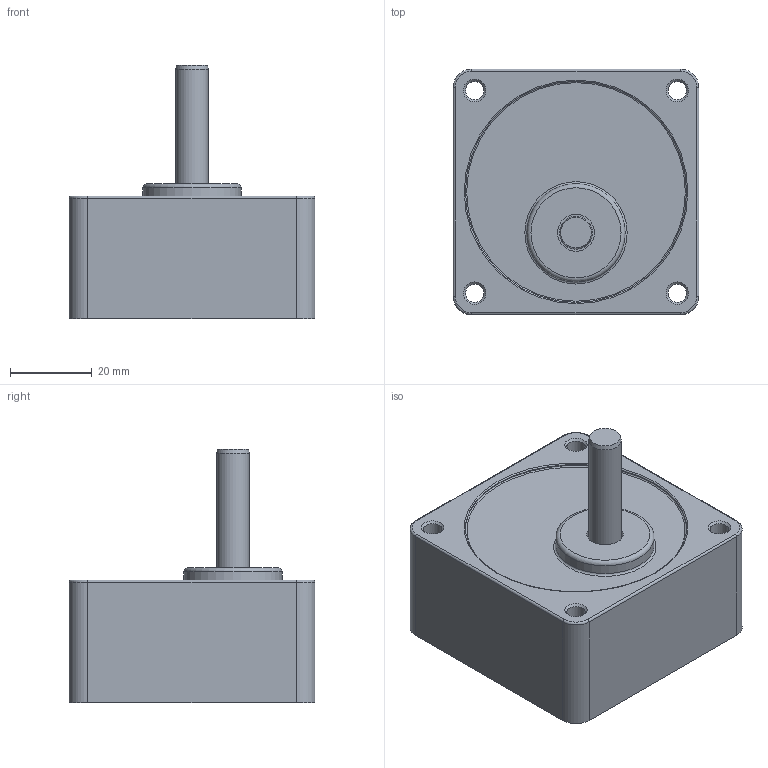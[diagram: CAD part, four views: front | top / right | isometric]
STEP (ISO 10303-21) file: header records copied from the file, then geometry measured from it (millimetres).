
FILE_DESCRIPTION((''),'2;1');
FILE_NAME('D:\STP파일\GEAR HEAD\6W\S6SA3~18.stp','2013-05-20T19:06:35',('leebh'),(''),'Autodesk Inventor 2011','Autodesk Inventor 2011','');
FILE_SCHEMA(('AUTOMOTIVE_DESIGN { 1 0 10303 214 1 1 1 1 }'));
Length unit declared in the file: millimetre
Products named in the file (1): S9I90G-T1
Bounding box: 60 x 60 x 62 mm (x, y, z)
Volume: 95697.3 mm3; surface area: 17934.8 mm2
Topology: 1 solids, 1 shells, 43 faces, 88 edges, 53 vertices
Faces by surface type: cylinder 18, plane 12, torus 8, cone 5
Full cylindrical faces by diameter (mm): 4.5 x4, 6 x1, 8 x1, 9 x1, 24 x1, 53.997 x1, 54 x1
Entity records: 1082 total; most frequent: DIRECTION 206, CARTESIAN_POINT 166, ORIENTED_EDGE 138, AXIS2_PLACEMENT_3D 93, EDGE_LOOP 76, EDGE_CURVE 69, VERTEX_POINT 53, CIRCLE 49
